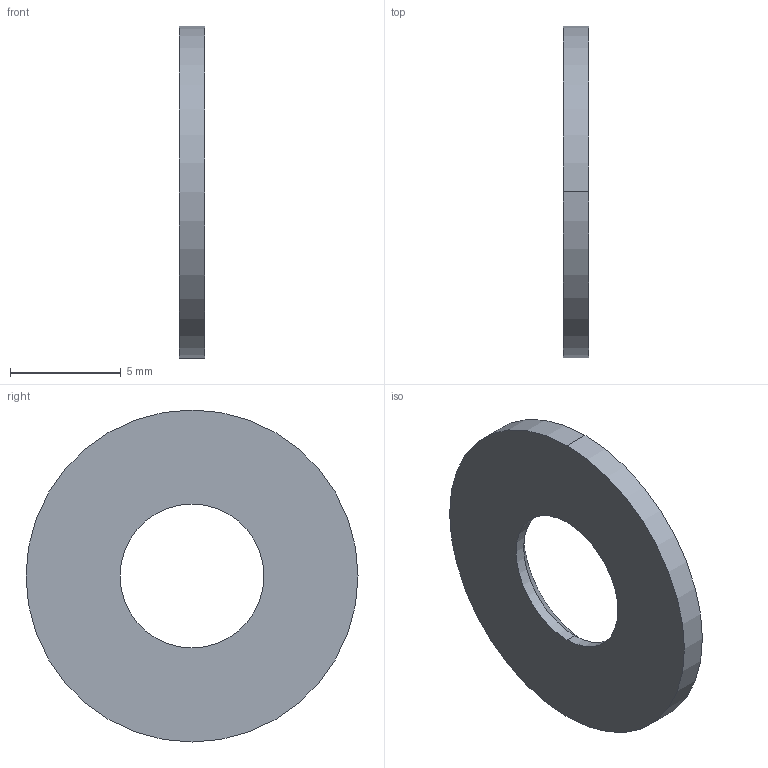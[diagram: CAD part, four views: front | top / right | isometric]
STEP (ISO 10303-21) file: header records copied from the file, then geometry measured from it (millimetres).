
FILE_DESCRIPTION (( 'STEP AP214' ), '1' );
FILE_NAME ('Anschraubplatte Tipmatic.STEP', '2016-11-03T09:26:31', ( '' ), ( '' ), 'SwSTEP 2.0', 'SolidWorks 2015', '' );
FILE_SCHEMA (( 'AUTOMOTIVE_DESIGN' ));
Length unit declared in the file: millimetre
Products named in the file (1): Anschraubplatte Tipmatic
Bounding box: 1.15 x 15 x 15 mm (x, y, z)
Volume: 160.2 mm3; surface area: 357.3 mm2
Topology: 1 solids, 1 shells, 8 faces, 18 edges, 12 vertices
Faces by surface type: cylinder 4, cone 2, plane 2
Entity records: 338 total; most frequent: DIRECTION 48, CARTESIAN_POINT 39, ORIENTED_EDGE 36, AXIS2_PLACEMENT_3D 21, EDGE_CURVE 18, VERTEX_POINT 12, CIRCLE 12, EDGE_LOOP 10
